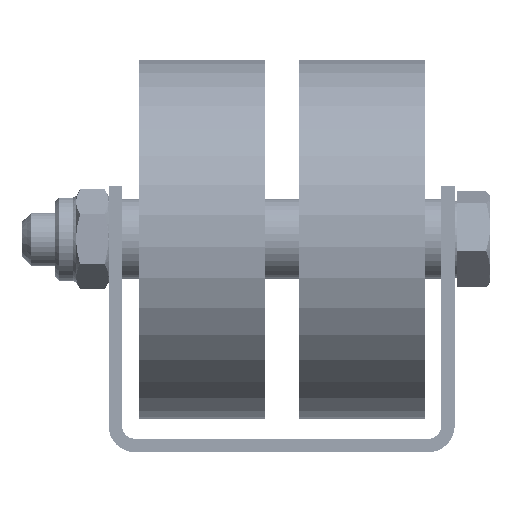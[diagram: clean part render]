
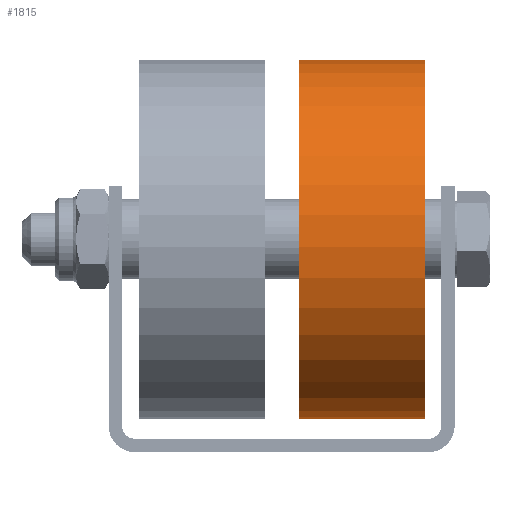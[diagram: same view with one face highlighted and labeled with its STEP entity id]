
A CAD part, front view. The second image highlights one B-rep face of the part: STEP entity #1815.
In plain terms, the highlighted cylindrical face has radius 27 mm (diameter 54 mm), a full revolution.
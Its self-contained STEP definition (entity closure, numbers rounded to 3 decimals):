
#1815 = ADVANCED_FACE( '', ( #2990, #2991 ), #2992, .T. );
#2990 = FACE_OUTER_BOUND( '', #4053, .T. );
#2991 = FACE_OUTER_BOUND( '', #4054, .T. );
#2992 = CYLINDRICAL_SURFACE( '', #4055, 27. );
#4053 = EDGE_LOOP( '', ( #5331 ) );
#4054 = EDGE_LOOP( '', ( #5332 ) );
#4055 = AXIS2_PLACEMENT_3D( '', #5333, #5334, #5335 );
#5331 = ORIENTED_EDGE( '', *, *, #6800, .T. );
#5332 = ORIENTED_EDGE( '', *, *, #6714, .F. );
#5333 = CARTESIAN_POINT( '', ( 0., -9.5, 0. ) );
#5334 = DIRECTION( '', ( 0., -1., 0. ) );
#5335 = DIRECTION( '', ( 0., 0., 1. ) );
#6714 = EDGE_CURVE( '', #7547, #7547, #7548, .T. );
#6800 = EDGE_CURVE( '', #7681, #7681, #7682, .T. );
#7547 = VERTEX_POINT( '', #8757 );
#7548 = CIRCLE( '', #8758, 27. );
#7681 = VERTEX_POINT( '', #8964 );
#7682 = CIRCLE( '', #8965, 27. );
#8757 = CARTESIAN_POINT( '', ( 27., 9.5, 0. ) );
#8758 = AXIS2_PLACEMENT_3D( '', #9999, #10000, #10001 );
#8964 = CARTESIAN_POINT( '', ( 27., -9.5, 0. ) );
#8965 = AXIS2_PLACEMENT_3D( '', #10111, #10112, #10113 );
#9999 = CARTESIAN_POINT( '', ( 0., 9.5, 0. ) );
#10000 = DIRECTION( '', ( 0., 1., 0. ) );
#10001 = DIRECTION( '', ( 1., 0., 0. ) );
#10111 = CARTESIAN_POINT( '', ( 0., -9.5, 0. ) );
#10112 = DIRECTION( '', ( 0., 1., 0. ) );
#10113 = DIRECTION( '', ( 1., 0., 0. ) );
